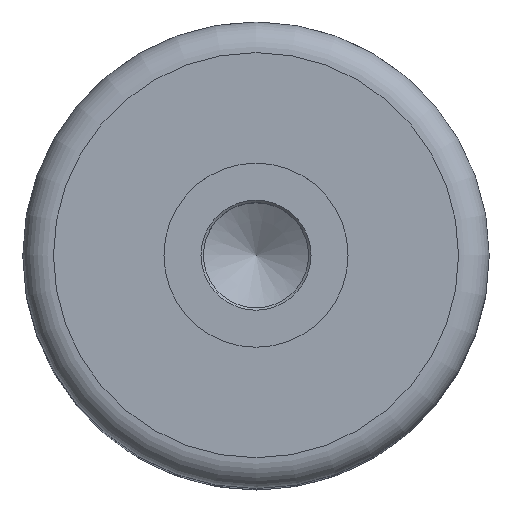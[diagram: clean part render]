
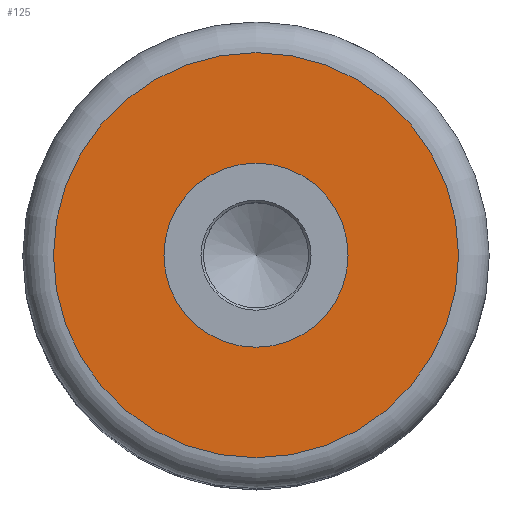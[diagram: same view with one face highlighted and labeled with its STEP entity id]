
A CAD part, top view. The second image highlights one B-rep face of the part: STEP entity #125.
In plain terms, the highlighted planar face has unit normal (0, 0, 1).
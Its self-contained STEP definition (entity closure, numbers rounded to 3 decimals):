
#125=ADVANCED_FACE('',(#219,#220),#221,.T.);
#219=FACE_BOUND('',#304,.T.);
#220=FACE_OUTER_BOUND('',#305,.T.);
#221=PLANE('',#306);
#304=EDGE_LOOP('',(#409));
#305=EDGE_LOOP('',(#410));
#306=AXIS2_PLACEMENT_3D('',#411,#412,#413);
#409=ORIENTED_EDGE('',*,*,#472,.F.);
#410=ORIENTED_EDGE('',*,*,#469,.T.);
#411=CARTESIAN_POINT('',(0.0,0.0,37.0));
#412=DIRECTION('',(0.0,0.0,1.0));
#413=DIRECTION('',(1.0,0.0,0.0));
#469=EDGE_CURVE('',#521,#521,#522,.T.);
#472=EDGE_CURVE('',#526,#526,#527,.T.);
#521=VERTEX_POINT('',#769);
#522=CIRCLE('',#770,16.5);
#526=VERTEX_POINT('',#774);
#527=CIRCLE('',#775,7.5);
#769=CARTESIAN_POINT('',(16.5,0.0,37.0));
#770=AXIS2_PLACEMENT_3D('',#824,#825,#826);
#774=CARTESIAN_POINT('',(7.5,0.0,37.0));
#775=AXIS2_PLACEMENT_3D('',#830,#831,#832);
#824=CARTESIAN_POINT('',(0.0,0.0,37.0));
#825=DIRECTION('',(0.0,0.0,1.0));
#826=DIRECTION('',(1.0,0.0,0.0));
#830=CARTESIAN_POINT('',(0.0,0.0,37.0));
#831=DIRECTION('',(0.0,0.0,1.0));
#832=DIRECTION('',(1.0,0.0,0.0));
